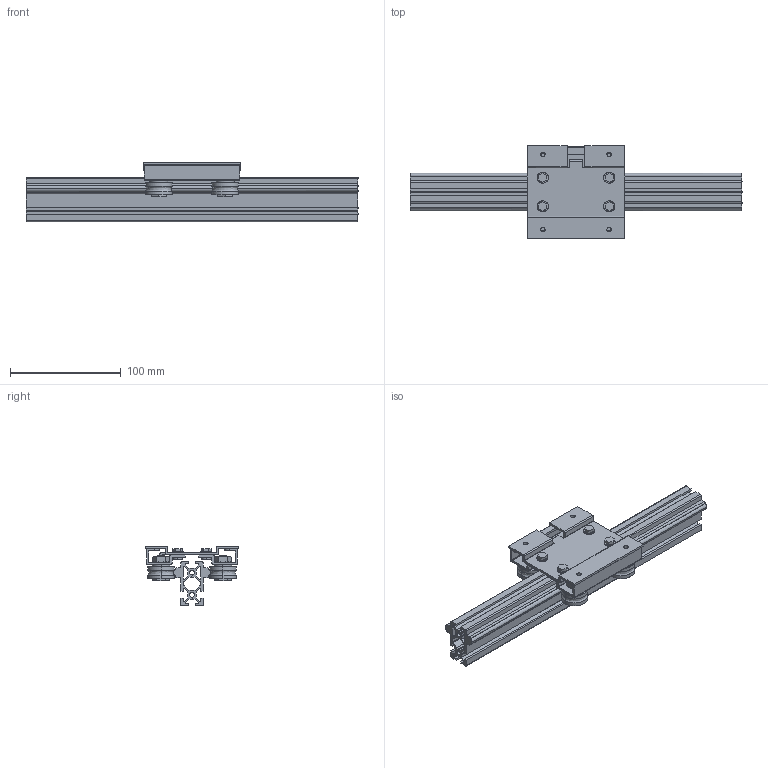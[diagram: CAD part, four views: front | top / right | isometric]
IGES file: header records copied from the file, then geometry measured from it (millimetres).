
Global section: file name: No Iges File Name specified; native system: AutoDesk Inventor R11.0; preprocessor: AutoDesk Inventor Iges Exporter R11.0; author: No Author specified; organization: No Organization specified; date: 20170802.093211; units: millimetre
Bounding box: 300 x 84 x 54 mm (x, y, z)
Surface area: 147791 mm2 (no closed solid volume)
Topology: 0 solids, 0 shells, 482 faces, 2902 edges, 2902 vertices
Faces by surface type: bspline 482
